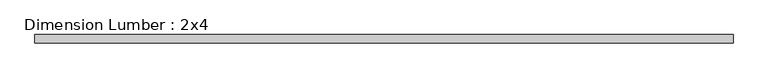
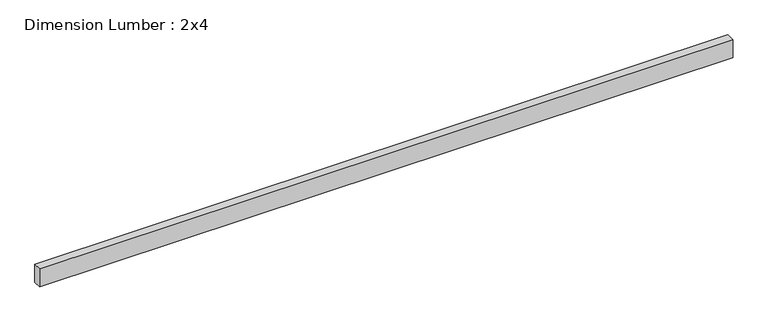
"""IFC4 building model written with IfcOpenShell, lengths in millimetres: beam geometry, Dimension Lumber : 2x4."""

from ifc_helpers import new_model, si_unit, frame, origin, place, context, project, spatial, polyline, outline, extrude, source, transform, mapped, element, save


def dimension_lumber_2x4_fe734b9b(model_context):
    return source(origin(), model_context, "Body", "SweptSolid", [
        extrude(outline(polyline([(1599.803125, -19.05), (-1599.803125, -19.05), (-1599.803125, 19.05), (1599.803125, 19.05), (1599.803125, -19.05)])), frame((0.0, 0.0, -44.45), z_axis=(0.0, 0.0, 1.0), x_axis=(1.0, 0.0, 0.0)), (0.0, 0.0, 1.0), 88.9),
    ])


if __name__ == "__main__":
    model = new_model("IFC4")
    model_context = context("Model", 3, world=origin())
    ifc_project = project(units=[si_unit("LENGTHUNIT", "METRE", prefix="MILLI")], contexts=[model_context])
    site = spatial("IfcSite", under=ifc_project)
    building = spatial("IfcBuilding", under=site)
    placement = place(None, origin())
    dimension_lumber_2x4_shape = dimension_lumber_2x4_fe734b9b(model_context)
    element("IfcBeam", 1, ObjectType="Dimension Lumber : 2x4", at=placement, inside=building, context=model_context, shape_type="MappedRepresentation", body=[
        mapped(dimension_lumber_2x4_shape, transform((0.0, 0.0, 0.0), x_axis=(1.0, 0.0, 0.0), y_axis=(0.0, 1.0, 0.0), z_axis=(0.0, 0.0, 1.0))),
    ])
    save(model, "model.ifc")
